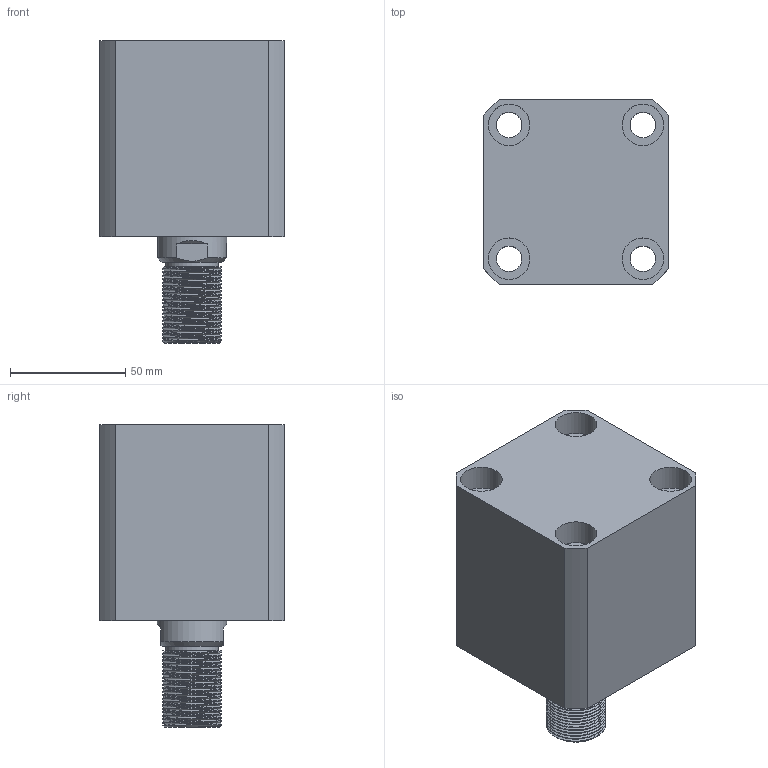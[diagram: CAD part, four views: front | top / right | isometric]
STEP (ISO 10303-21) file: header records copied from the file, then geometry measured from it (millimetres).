
FILE_DESCRIPTION(/* description */ (''),/* implementation_level */ '2;1');
FILE_NAME(/* name */ 'CHTB-SD50-25W.stp',/* time_stamp */ '2022-04-29T18:15:10+08:00',/* author */ (''),/* organization */ (''),/* preprocessor_version */ 'ST-DEVELOPER v16.7',/* originating_system */ 'SIEMENS PLM Software NX 12.0',/* authorisation */ '');
FILE_SCHEMA (('AUTOMOTIVE_DESIGN { 1 0 10303 214 3 1 1 1 }'));
Length unit declared in the file: millimetre
Products named in the file (1): CHTB-SD50-25W
Bounding box: 80 x 80 x 131 mm (x, y, z)
Volume: 476594.8 mm3; surface area: 99049.6 mm2
Topology: 3 solids, 3 shells, 415 faces, 1191 edges, 830 vertices
Faces by surface type: plane 256, extrusion 80, cylinder 49, torus 11, bspline 10, cone 9
Full cylindrical faces by diameter (mm): 4 x4, 10.7 x2, 11 x4, 18 x8, 23 x1, 30 x2, 39 x1, 46 x1, 50 x5, 55 x9, 59 x1
Entity records: 22634 total; most frequent: CARTESIAN_POINT 10650, ORIENTED_EDGE 2228, DIRECTION 1598, EDGE_CURVE 1114, VERTEX_POINT 815, VECTOR 764, LINE 684, EDGE_LOOP 519
